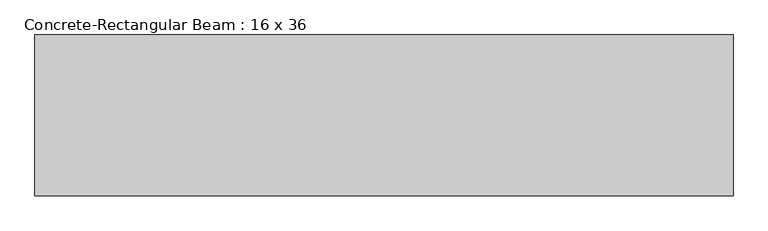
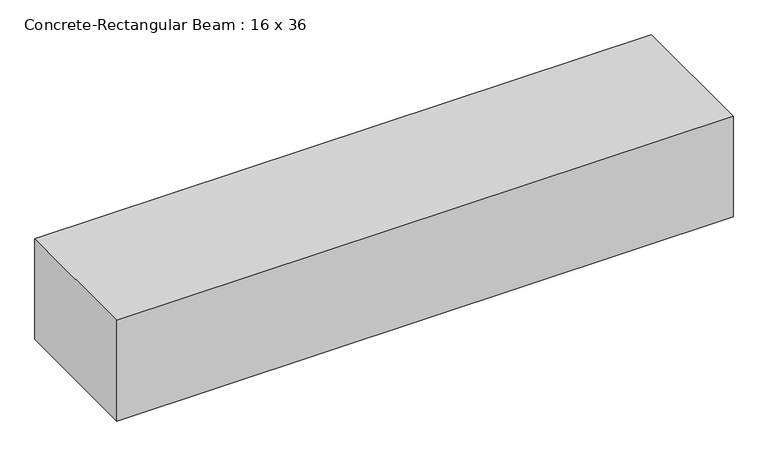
"""IFC4 building model written with IfcOpenShell, lengths in millimetres: beam geometry, Concrete-Rectangular Beam : 16 x 36."""

import ifcopenshell
import ifcopenshell.guid

model = None  # the IFC model being written
_history = None  # IfcOwnerHistory: only IFC2X3 demands one
_inside = {}  # id of a spatial element -> (the spatial element, [elements in it])
_under = {}  # id of a project, library or spatial element -> (it, [spatial elements below it])
_declared = {}  # id of a project -> (the project, [libraries it declares])
_typed = {}  # id of a type object -> (the type object, [elements of that type])
_made_of = {}  # id of a material, layer set ... -> (it, [elements and type objects made of it])


def new_model(schema):
    """Start an empty IFC model of exactly this schema.

    Asked for "IFC4X3", IfcOpenShell would pick the latest addendum, in which some entities
    have other attributes; the version numbers below select the first issue.
    IFC2X3 requires an IfcOwnerHistory on every rooted entity: one is made here for all.
    """
    global model, _history
    if schema == "IFC4X3":
        model = ifcopenshell.file(schema_version=(4, 3, 0, 0))
    else:
        model = ifcopenshell.file(schema=schema)
    _inside.clear()
    _under.clear()
    _declared.clear()
    _typed.clear()
    _made_of.clear()
    _history = None
    if model.schema == "IFC2X3":
        org = make("IfcOrganization", Name="unknown")
        user = make(
            "IfcPersonAndOrganization",
            ThePerson=make("IfcPerson", FamilyName="unknown"),
            TheOrganization=org,
        )
        app = make(
            "IfcApplication",
            ApplicationDeveloper=org,
            Version="unknown",
            ApplicationFullName="unknown",
            ApplicationIdentifier="unknown",
        )
        _history = make(
            "IfcOwnerHistory",
            OwningUser=user,
            OwningApplication=app,
            ChangeAction="ADDED",
            CreationDate=0,
        )
    return model


def make(cls, **values):
    """One entity of the class cls with the attributes given. An attribute that is None is left unset."""
    return model.create_entity(
        cls, **{name: value for name, value in values.items() if value is not None}
    )


def rooted(cls, **values):
    """An entity with a GlobalId (a new one), such as an element, a storey or a relation."""
    return make(cls, GlobalId=ifcopenshell.guid.new(), OwnerHistory=_history, **values)


def si_unit(unit_type, name, prefix=None):
    """IfcSIUnit, for example si_unit("LENGTHUNIT", "METRE", prefix="MILLI")."""
    return make("IfcSIUnit", UnitType=unit_type, Prefix=prefix, Name=name)


def assignment(units):
    """IfcUnitAssignment: the units of a project."""
    return None if units is None else make("IfcUnitAssignment", Units=units)


def point(xyz):
    """IfcCartesianPoint."""
    return None if xyz is None else make("IfcCartesianPoint", Coordinates=xyz)


def direction(xyz):
    """IfcDirection."""
    return None if xyz is None else make("IfcDirection", DirectionRatios=xyz)


def frame(location, z_axis=None, x_axis=None):
    """IfcAxis2Placement3D, a coordinate frame: its origin and axes. An axis left out is left unset."""
    return make(
        "IfcAxis2Placement3D",
        Location=point(location),
        Axis=direction(z_axis),
        RefDirection=direction(x_axis),
    )


def origin():
    """The frame at (0, 0, 0) with its axes left unset."""
    return frame((0.0, 0.0, 0.0))


def place(relative_to, where):
    """IfcLocalPlacement: puts the frame where relative to a parent placement (None: the world)."""
    return make(
        "IfcLocalPlacement", PlacementRelTo=relative_to, RelativePlacement=where
    )


def context(
    kind, dimensions, precision=None, world=None, true_north=None, identifier=None
):
    """IfcGeometricRepresentationContext, for example the 3D "Model" context."""
    return make(
        "IfcGeometricRepresentationContext",
        ContextIdentifier=identifier,
        ContextType=kind,
        CoordinateSpaceDimension=dimensions,
        Precision=precision,
        WorldCoordinateSystem=world,
        TrueNorth=true_north,
    )


def project(units=None, contexts=None):
    """IfcProject with its units and contexts."""
    return rooted(
        "IfcProject",
        Name="project",
        RepresentationContexts=contexts,
        UnitsInContext=assignment(units),
    )


def spatial(cls, under=None, at=None, **own):
    """A site, building, storey or space (cls), placed at a placement, below another one or the project."""
    s = rooted(cls, ObjectPlacement=at, **own)
    if under is not None:
        _under.setdefault(under.id(), (under, []))[1].append(s)
    return s


def polyline(points):
    """IfcPolyline through the points."""
    return make("IfcPolyline", Points=[point(p) for p in points])


def outline(outer, holes=None, kind="AREA"):
    """IfcArbitraryClosedProfileDef: a profile drawn as a closed curve; with holes, ...WithVoids."""
    if holes is None:
        return make("IfcArbitraryClosedProfileDef", ProfileType=kind, OuterCurve=outer)
    return make(
        "IfcArbitraryProfileDefWithVoids",
        ProfileType=kind,
        OuterCurve=outer,
        InnerCurves=holes,
    )


def extrude(swept, where, along, depth):
    """IfcExtrudedAreaSolid: the profile swept, set in the frame where, extruded along a direction by depth."""
    return make(
        "IfcExtrudedAreaSolid",
        SweptArea=swept,
        Position=where,
        ExtrudedDirection=direction(along),
        Depth=depth,
    )


def shape(context_of_items, identifier, shape_type, items):
    """IfcShapeRepresentation: the items that make up one representation, for example the "Body"."""
    return make(
        "IfcShapeRepresentation",
        ContextOfItems=context_of_items,
        RepresentationIdentifier=identifier,
        RepresentationType=shape_type,
        Items=items,
    )


def source(mapping_origin, context_of_items, identifier, shape_type, items):
    """IfcRepresentationMap: a shape defined once, which mapped items show again and again."""
    return make(
        "IfcRepresentationMap",
        MappingOrigin=mapping_origin,
        MappedRepresentation=shape(context_of_items, identifier, shape_type, items),
    )


def transform(
    local_origin,
    x_axis=None,
    y_axis=None,
    z_axis=None,
    scale=None,
    scale2=None,
    scale3=None,
    uniform=True,
):
    """IfcCartesianTransformationOperator3D, or its non-uniform kind. x_axis, y_axis, z_axis: its Axis1, 2, 3."""
    if uniform:
        return make(
            "IfcCartesianTransformationOperator3D",
            Axis1=direction(x_axis),
            Axis2=direction(y_axis),
            LocalOrigin=point(local_origin),
            Scale=scale,
            Axis3=direction(z_axis),
        )
    return make(
        "IfcCartesianTransformationOperator3DnonUniform",
        Axis1=direction(x_axis),
        Axis2=direction(y_axis),
        LocalOrigin=point(local_origin),
        Scale=scale,
        Axis3=direction(z_axis),
        Scale2=scale2,
        Scale3=scale3,
    )


def mapped(mapping_source, mapping_target):
    """IfcMappedItem: shows the shape of a source again, moved by a transform."""
    return make(
        "IfcMappedItem", MappingSource=mapping_source, MappingTarget=mapping_target
    )


def made_of(thing, what):
    """Note that an element or type object is made of a material, layer set ...; save() writes the relation."""
    if what is not None:
        _made_of.setdefault(what.id(), (what, []))[1].append(thing)
    return thing


def element(
    cls,
    number,
    at=None,
    inside=None,
    cuts=None,
    type_object=None,
    material=None,
    context=None,
    identifier="Body",
    shape_type=None,
    held_by="IfcProductDefinitionShape",
    body=None,
    shapes=None,
    **own,
):
    """One element of the class cls, such as IfcWall. Its Tag is "e" and its number.

    at: its placement. inside: the storey or other place that contains it. cuts: it is an
    opening in that element (IfcRelVoidsElement). A single representation is given by context,
    identifier, shape_type and body (its items); several are given by shapes. held_by: the class
    of the entity that holds the representations. save() writes the other relations.
    """
    e = rooted(cls, Tag="e%d" % number, ObjectPlacement=at, **own)
    if body is not None:
        shapes = [shape(context, identifier, shape_type, body)]
    if shapes is not None:
        e.Representation = make(held_by, Representations=shapes)
    if inside is not None:
        _inside.setdefault(inside.id(), (inside, []))[1].append(e)
    if cuts is not None:
        rooted(
            "IfcRelVoidsElement", RelatingBuildingElement=cuts, RelatedOpeningElement=e
        )
    if type_object is not None:
        _typed.setdefault(type_object.id(), (type_object, []))[1].append(e)
    return made_of(e, material)


def aggregate(whole, parts):
    """IfcRelAggregates: a whole, such as a stair, and the parts it consists of."""
    return rooted("IfcRelAggregates", RelatingObject=whole, RelatedObjects=parts)


def save(model, path):
    """Write the relations noted so far, then the file.

    IfcRelAggregates (storeys below a building ...), IfcRelContainedInSpatialStructure (elements
    in a storey), IfcRelDefinesByType, IfcRelAssociatesMaterial and IfcRelDeclares: one each for
    every whole, place, type object, material and project.
    """
    for whole, parts in _under.values():
        aggregate(whole, parts)
    for where, things in _inside.values():
        rooted(
            "IfcRelContainedInSpatialStructure",
            RelatedElements=things,
            RelatingStructure=where,
        )
    for kind, things in _typed.values():
        rooted("IfcRelDefinesByType", RelatedObjects=things, RelatingType=kind)
    for what, things in _made_of.values():
        rooted("IfcRelAssociatesMaterial", RelatedObjects=things, RelatingMaterial=what)
    for by, libraries in _declared.values():
        rooted("IfcRelDeclares", RelatingContext=by, RelatedDefinitions=libraries)
    model.write(path)


def concrete_rectangular_beam_16_x_36_812464ae(model_context):
    return source(origin(), model_context, "Body", "SweptSolid", [
        extrude(outline(polyline([(1651.6915077, 381.0), (1651.6915077, -381.0), (-1651.6915077, -381.0), (-1651.6915077, 381.0), (1651.6915077, 381.0)])), frame((0.0, 0.0, -284.95625), z_axis=(0.0, 0.0, 1.0), x_axis=(1.0, 0.0, 0.0)), (0.0, 0.0, 1.0), 569.9125),
    ])


if __name__ == "__main__":
    model = new_model("IFC4")
    model_context = context("Model", 3, world=origin())
    ifc_project = project(units=[si_unit("LENGTHUNIT", "METRE", prefix="MILLI")], contexts=[model_context])
    site = spatial("IfcSite", under=ifc_project)
    building = spatial("IfcBuilding", under=site)
    placement = place(None, origin())
    concrete_rectangular_beam_16_x_36_shape = concrete_rectangular_beam_16_x_36_812464ae(model_context)
    element("IfcBeam", 1, ObjectType="Concrete-Rectangular Beam : 16 x 36", at=placement, inside=building, context=model_context, shape_type="MappedRepresentation", body=[
        mapped(concrete_rectangular_beam_16_x_36_shape, transform((0.0, 0.0, 0.0), x_axis=(1.0, 0.0, 0.0), y_axis=(0.0, 1.0, 0.0), z_axis=(0.0, 0.0, 1.0))),
    ])
    save(model, "model.ifc")
